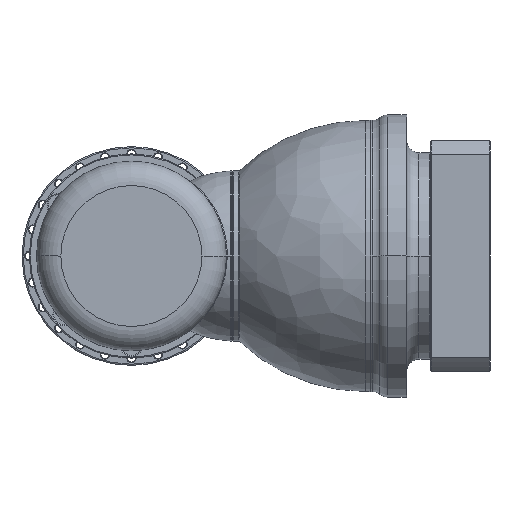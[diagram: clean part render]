
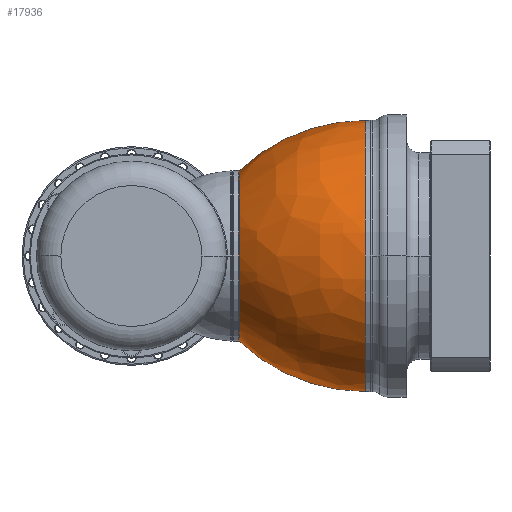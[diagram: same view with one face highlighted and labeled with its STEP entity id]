
A CAD part, left-side view. The second image highlights one B-rep face of the part: STEP entity #17936.
In plain terms, the highlighted free-form (B-spline) face has degree [3, 3] with [7, 4] control points.
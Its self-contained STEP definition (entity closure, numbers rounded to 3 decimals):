
#17642=CARTESIAN_POINT('',(-4.,0.,0.));
#17643=DIRECTION('',(1.,0.,0.));
#17644=DIRECTION('',(0.,-1.,0.));
#17645=AXIS2_PLACEMENT_3D('',#17642,#17643,#17644);
#17666=CARTESIAN_POINT('',(-4.,-39.563,0.));
#17667=DIRECTION('',(0.,0.,-1.));
#17668=DIRECTION('',(-0.687,0.726,0.));
#17669=AXIS2_PLACEMENT_3D('',#17666,#17667,#17668);
#17671=CARTESIAN_POINT('',(-4.,39.563,0.));
#17672=DIRECTION('',(0.,0.,1.));
#17673=DIRECTION('',(-0.687,-0.726,0.));
#17674=AXIS2_PLACEMENT_3D('',#17671,#17672,#17673);
#17686=CARTESIAN_POINT('',(-107.856,0.,0.));
#17687=DIRECTION('',(-1.,0.,0.));
#17688=DIRECTION('',(0.,1.,0.));
#17689=AXIS2_PLACEMENT_3D('',#17686,#17687,#17688);
#17737=CARTESIAN_POINT('',(-4.,111.5,0.));
#17738=CARTESIAN_POINT('',(-4.,-111.5,0.));
#17739=VERTEX_POINT('',#17737);
#17740=VERTEX_POINT('',#17738);
#17741=CARTESIAN_POINT('',(-107.856,70.137,0.));
#17742=CARTESIAN_POINT('',(-107.856,-70.137,0.));
#17743=VERTEX_POINT('',#17741);
#17744=VERTEX_POINT('',#17742);
#17901=CARTESIAN_POINT('',(-1.71,111.263,
7.));
#17902=CARTESIAN_POINT('',(-42.466,111.879,
7.039));
#17903=CARTESIAN_POINT('',(-80.335,96.827,
6.092));
#17904=CARTESIAN_POINT('',(-109.507,68.415,
4.304));
#17905=CARTESIAN_POINT('',(-1.71,115.57,
-61.471));
#17906=CARTESIAN_POINT('',(-42.466,116.211,
-61.812));
#17907=CARTESIAN_POINT('',(-80.335,100.576,
-53.495));
#17908=CARTESIAN_POINT('',(-109.507,71.063,
-37.798));
#17909=CARTESIAN_POINT('',(-1.71,68.606,
-111.483));
#17910=CARTESIAN_POINT('',(-42.466,68.987,
-112.101));
#17911=CARTESIAN_POINT('',(-80.335,59.705,
-97.019));
#17912=CARTESIAN_POINT('',(-109.507,42.185,
-68.55));
#17913=CARTESIAN_POINT('',(-1.71,0.,
-111.483));
#17914=CARTESIAN_POINT('',(-42.466,0.,
-112.101));
#17915=CARTESIAN_POINT('',(-80.335,0.,-97.019));
#17916=CARTESIAN_POINT('',(-109.507,0.,-68.55));
#17917=CARTESIAN_POINT('',(-1.71,-68.606,
-111.483));
#17918=CARTESIAN_POINT('',(-42.466,-68.987,
-112.101));
#17919=CARTESIAN_POINT('',(-80.335,-59.705,
-97.019));
#17920=CARTESIAN_POINT('',(-109.507,-42.185,
-68.55));
#17921=CARTESIAN_POINT('',(-1.71,-115.57,
-61.471));
#17922=CARTESIAN_POINT('',(-42.466,-116.211,
-61.812));
#17923=CARTESIAN_POINT('',(-80.335,-100.576,
-53.495));
#17924=CARTESIAN_POINT('',(-109.507,-71.063,
-37.798));
#17925=CARTESIAN_POINT('',(-1.71,-111.263,
7.));
#17926=CARTESIAN_POINT('',(-42.466,-111.879,
7.039));
#17927=CARTESIAN_POINT('',(-80.335,-96.827,
6.092));
#17928=CARTESIAN_POINT('',(-109.507,-68.415,
4.304));
#17929=(BOUNDED_SURFACE()B_SPLINE_SURFACE(3,3,((#17901,#17902,#17903,#17904),(
#17905,#17906,#17907,#17908),(#17909,#17910,#17911,#17912),(#17913,#17914,
#17915,#17916),(#17917,#17918,#17919,#17920),(#17921,#17922,#17923,#17924),(
#17925,#17926,#17927,#17928)),.UNSPECIFIED.,.F.,.F.,.F.)B_SPLINE_SURFACE_WITH_KNOTS((4,3,4),(4,4),(0.,1.,2.),(0.,1.),.UNSPECIFIED.)GEOMETRIC_REPRESENTATION_ITEM()RATIONAL_B_SPLINE_SURFACE(((1.235,1.171,
1.171,1.235),(0.975,0.925,
0.925,0.975),(0.975,0.925,
0.925,0.975),(1.235,1.171,
1.171,1.235),(0.975,0.925,
0.925,0.975),(0.975,0.925,
0.925,0.975),(1.235,1.171,
1.171,1.235)))REPRESENTATION_ITEM('')SURFACE());
#17930=ORIENTED_EDGE('',*,*,#17892,.T.);
#17931=ORIENTED_EDGE('',*,*,#17867,.T.);
#17932=ORIENTED_EDGE('',*,*,#17813,.T.);
#17933=ORIENTED_EDGE('',*,*,#17864,.F.);
#17934=EDGE_LOOP('',(#17930,#17931,#17932,#17933));
#17935=FACE_OUTER_BOUND('',#17934,.F.);
#17936=ADVANCED_FACE('',(#17935),#17929,.T.);
#17646=CIRCLE('',#17645,111.5);
#17670=CIRCLE('',#17669,151.063);
#17675=CIRCLE('',#17674,151.063);
#17690=CIRCLE('',#17689,70.137);
#17813=EDGE_CURVE('',#17740,#17739,#17646,.T.);
#17864=EDGE_CURVE('',#17743,#17739,#17670,.T.);
#17867=EDGE_CURVE('',#17744,#17740,#17675,.T.);
#17892=EDGE_CURVE('',#17743,#17744,#17690,.T.);
